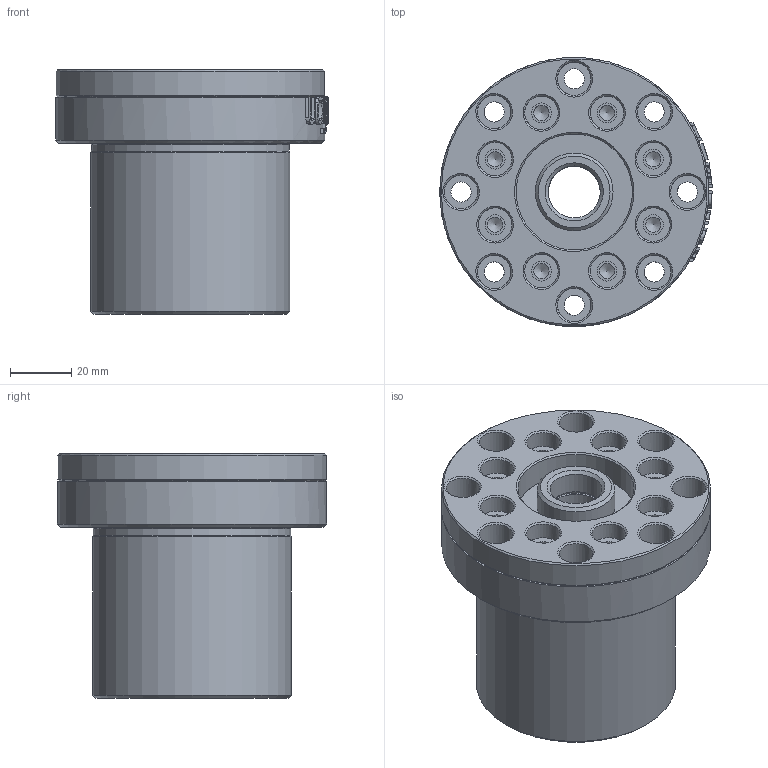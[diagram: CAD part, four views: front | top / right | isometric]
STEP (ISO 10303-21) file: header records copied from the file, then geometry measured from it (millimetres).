
FILE_DESCRIPTION(/* description */ (''),/* implementation_level */ '2;1');
FILE_NAME(/* name */ 'MBK17DFF.stp',/* time_stamp */ '2016-10-26T18:39:40+08:00',/* author */ (''),/* organization */ (''),/* preprocessor_version */ 'ST-DEVELOPER v15',/* originating_system */ 'SIEMENS PLM Software NX 8.5',/* authorisation */ '');
FILE_SCHEMA (('CONFIG_CONTROL_DESIGN'));
Length unit declared in the file: millimetre
Products named in the file (1): MBK17DFF
Bounding box: 89.17 x 88 x 80 mm (x, y, z)
Volume: 285034.8 mm3; surface area: 49926.9 mm2
Topology: 1 solids, 3 shells, 244 faces, 716 edges, 483 vertices
Faces by surface type: plane 90, cylinder 58, cone 45, extrusion 41, bspline 10
Full cylindrical faces by diameter (mm): 5 x8, 6.5 x8, 6.6 x8, 11 x16, 17 x3, 25.4 x3, 38 x1, 47 x1, 64.6 x1, 65 x1, 88 x2
Entity records: 8498 total; most frequent: CARTESIAN_POINT 3047, ORIENTED_EDGE 1056, DIRECTION 978, EDGE_CURVE 528, AXIS2_PLACEMENT_3D 403, VERTEX_POINT 399, EDGE_LOOP 389, FACE_BOUND 281
